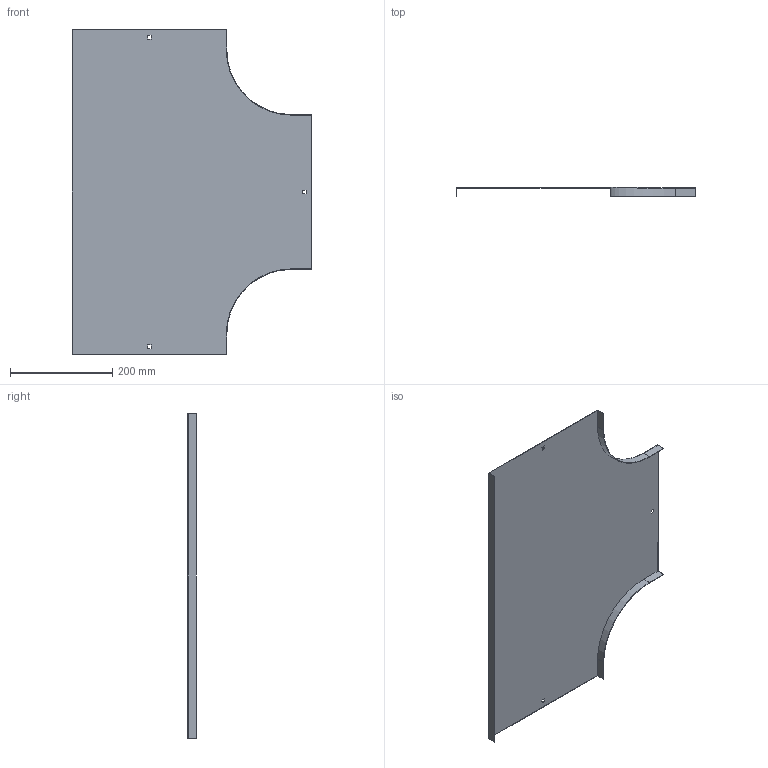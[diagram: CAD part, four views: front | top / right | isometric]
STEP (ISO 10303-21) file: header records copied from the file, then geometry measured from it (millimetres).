
FILE_DESCRIPTION (( 'STEP AP214' ), '1' );
FILE_NAME ('OT_300.step', '2025-07-16T09:18:14', ( '' ), ( '' ), 'SwSTEP 2.0', 'SolidWorks 2023', '' );
FILE_SCHEMA (( 'AUTOMOTIVE_DESIGN' ));
Length unit declared in the file: millimetre
Products named in the file (1): OT_300
Bounding box: 468 x 17 x 634 mm (x, y, z)
Volume: 267350.6 mm3; surface area: 536971.1 mm2
Topology: 1 solids, 1 shells, 34 faces, 96 edges, 64 vertices
Faces by surface type: plane 30, cylinder 4
Entity records: 1123 total; most frequent: CARTESIAN_POINT 195, ORIENTED_EDGE 192, DIRECTION 174, EDGE_CURVE 96, LINE 88, VECTOR 88, VERTEX_POINT 64, AXIS2_PLACEMENT_3D 43
